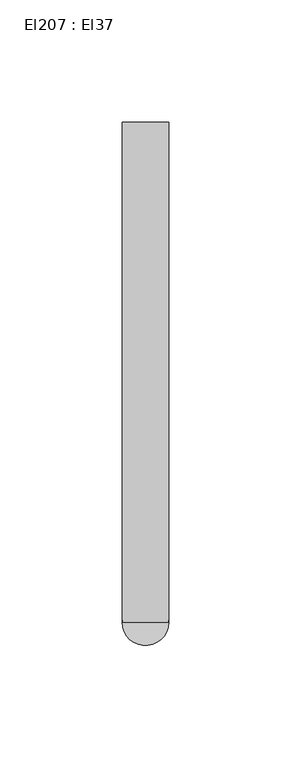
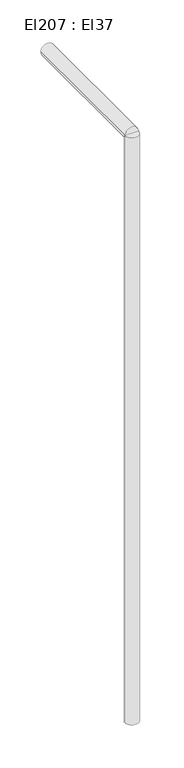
"""IFC4 building model written with IfcOpenShell, lengths in millimetres: cable carrier segment geometry, El207 : El37."""

from ifc_helpers import new_model, si_unit, point, frame, frame_2d, origin, place, context, project, spatial, circle_curve, trimmed, segment, composite_curve, outline, extrude, source, transform, mapped, element, save


def el207_el37_3734109c(model_context):
    return source(origin(), model_context, "Body", "SweptSolid", [
        extrude(outline(composite_curve([segment(trimmed(circle_curve(frame_2d((2764.4746511, 10164.6927745)), 9.5), [point((2754.9746511, 10164.6927745))], [point((2773.9746511, 10164.6927745))], False, "CARTESIAN"), True, "CONTINUOUS"), segment(trimmed(circle_curve(frame_2d((2764.4746511, 10164.6927745)), 9.5), [point((2773.9746511, 10164.6927745))], [point((2754.9746511, 10164.6927745))], False, "CARTESIAN"), True, "CONTINUOUS")], self_intersect=False)), frame((0.0, 0.0, 1830.0), z_axis=(0.0, 0.0, 1.0), x_axis=(1.0, 0.0, 0.0)), (0.0, 0.0, 1.0), 870.0),
        extrude(outline(composite_curve([segment(trimmed(circle_curve(frame_2d((2700.0, 2764.4746511)), 9.5), [point((2700.0, 2754.9746511))], [point((2700.0, 2773.9746511))], False, "CARTESIAN"), True, "CONTINUOUS"), segment(trimmed(circle_curve(frame_2d((2700.0, 2764.4746511)), 9.5), [point((2700.0, 2773.9746511))], [point((2700.0, 2754.9746511))], False, "CARTESIAN"), True, "CONTINUOUS")], self_intersect=False)), frame((0.0, 10164.6921745, 0.0), z_axis=(0.0, 1.0, 0.0), x_axis=(0.0, 0.0, 1.0)), (0.0, 0.0, 1.0), 204.739),
    ])


if __name__ == "__main__":
    model = new_model("IFC4")
    model_context = context("Model", 3, world=origin())
    ifc_project = project(units=[si_unit("LENGTHUNIT", "METRE", prefix="MILLI")], contexts=[model_context])
    site = spatial("IfcSite", under=ifc_project)
    building = spatial("IfcBuilding", under=site)
    placement = place(None, origin())
    el207_el37_shape = el207_el37_3734109c(model_context)
    element("IfcCableCarrierSegment", 1, ObjectType="El207 : El37", at=placement, inside=building, context=model_context, shape_type="MappedRepresentation", body=[
        mapped(el207_el37_shape, transform((0.0, 0.0, 0.0), x_axis=(1.0, 0.0, 0.0), y_axis=(0.0, 1.0, 0.0), z_axis=(0.0, 0.0, 1.0))),
    ])
    save(model, "model.ifc")
